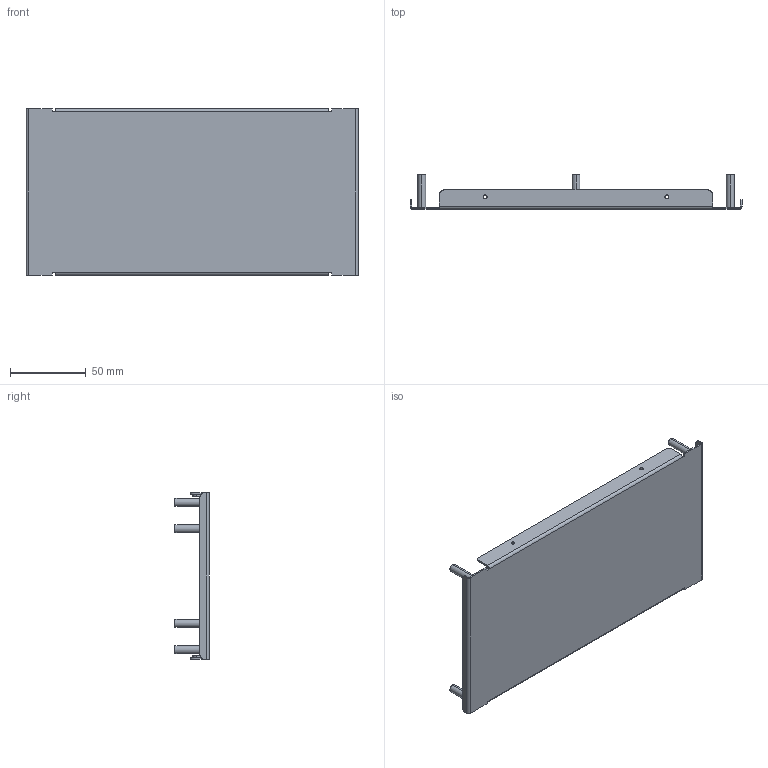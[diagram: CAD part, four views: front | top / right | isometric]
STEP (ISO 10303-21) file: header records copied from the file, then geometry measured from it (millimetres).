
FILE_DESCRIPTION((''),'2;1');
FILE_NAME('GCN800A02_-V0000','2025-07-09T03:12:50',('Administrator'),(''),'CREO PARAMETRIC BY PTC INC, 2020033','CREO PARAMETRIC BY PTC INC, 2020033','');
FILE_SCHEMA(('CONFIG_CONTROL_DESIGN'));
Length unit declared in the file: millimetre
Products named in the file (1): GCN800A02_-V0000
Bounding box: 219.4 x 22.5 x 110 mm (x, y, z)
Volume: 31329 mm3; surface area: 61919 mm2
Topology: 1 solids, 1 shells, 108 faces, 268 edges, 166 vertices
Faces by surface type: cylinder 56, plane 40, cone 12
Entity records: 3194 total; most frequent: DIRECTION 584, CARTESIAN_POINT 530, ORIENTED_EDGE 512, EDGE_CURVE 256, AXIS2_PLACEMENT_3D 220, VERTEX_POINT 166, VECTOR 144, LINE 144
